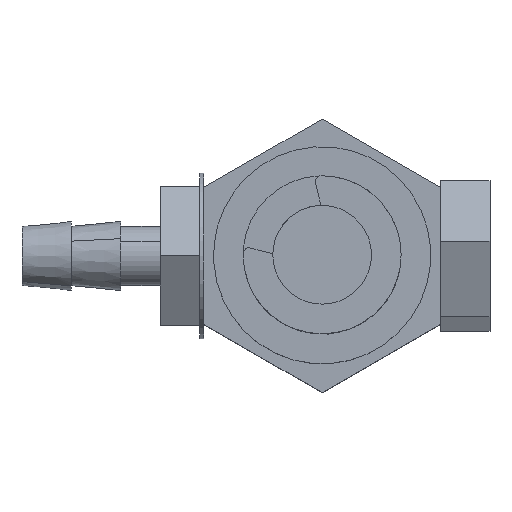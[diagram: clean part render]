
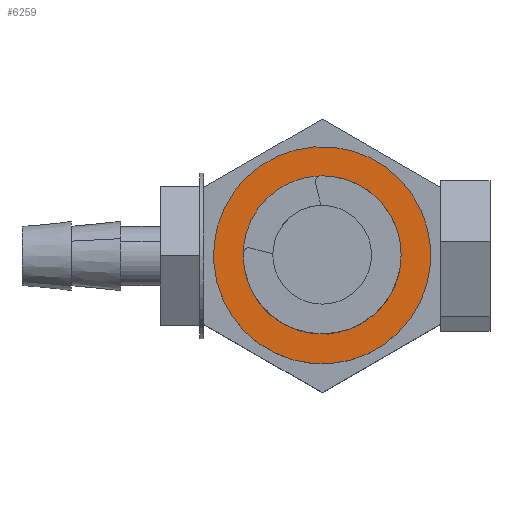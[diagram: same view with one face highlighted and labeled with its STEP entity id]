
A CAD part, top view. The second image highlights one B-rep face of the part: STEP entity #6259.
In plain terms, the highlighted planar face has unit normal (0, 0, 1).
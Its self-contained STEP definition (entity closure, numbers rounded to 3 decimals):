
#398 = DIRECTION ( 'NONE',  ( 0.413, -0.911, 0. ) ) ;
#857 = CIRCLE ( 'NONE', #7018, 4. ) ;
#953 = CARTESIAN_POINT ( 'NONE',  ( -1.237, -2.683, 8.25 ) ) ;
#1015 = AXIS2_PLACEMENT_3D ( 'NONE', #8887, #4668, #398 ) ;
#1981 = DIRECTION ( 'NONE',  ( 0., 0., -1. ) ) ;
#2286 = AXIS2_PLACEMENT_3D ( 'NONE', #6263, #1981, #6973 ) ;
#2502 = VERTEX_POINT ( 'NONE', #8126 ) ;
#2545 = CARTESIAN_POINT ( 'NONE',  ( 4.679, -6.038, 8.25 ) ) ;
#3066 = FACE_BOUND ( 'NONE', #7951, .T. ) ;
#3727 = DIRECTION ( 'NONE',  ( 0., 0., -1. ) ) ;
#3888 = DIRECTION ( 'NONE',  ( 0., 0., -1. ) ) ;
#4121 = CARTESIAN_POINT ( 'NONE',  ( 2.406, -1.03, 8.25 ) ) ;
#4171 = ORIENTED_EDGE ( 'NONE', *, *, #4575, .T. ) ;
#4575 = EDGE_CURVE ( 'NONE', #7172, #7605, #857, .T. ) ;
#4605 = AXIS2_PLACEMENT_3D ( 'NONE', #4121, #9055, #4843 ) ;
#4668 = DIRECTION ( 'NONE',  ( 0., 0., -1. ) ) ;
#4748 = FACE_OUTER_BOUND ( 'NONE', #5403, .T. ) ;
#4843 = DIRECTION ( 'NONE',  ( 0.911, 0.413, 0. ) ) ;
#4948 = ORIENTED_EDGE ( 'NONE', *, *, #5534, .T. ) ;
#5121 = ORIENTED_EDGE ( 'NONE', *, *, #6009, .F. ) ;
#5402 = ORIENTED_EDGE ( 'NONE', *, *, #6134, .F. ) ;
#5403 = EDGE_LOOP ( 'NONE', ( #5121, #5402 ) ) ;
#5534 = EDGE_CURVE ( 'NONE', #7605, #7172, #8721, .T. ) ;
#5987 = AXIS2_PLACEMENT_3D ( 'NONE', #8119, #3888, #8830 ) ;
#6009 = EDGE_CURVE ( 'NONE', #6733, #2502, #7406, .T. ) ;
#6134 = EDGE_CURVE ( 'NONE', #2502, #6733, #6530, .T. ) ;
#6259 = ADVANCED_FACE ( 'NONE', ( #3066, #4748 ), #6939, .F. ) ;
#6263 = CARTESIAN_POINT ( 'NONE',  ( -0.363, -8.398, 8.25 ) ) ;
#6530 = CIRCLE ( 'NONE', #1015, 5.5 ) ;
#6733 = VERTEX_POINT ( 'NONE', #2545 ) ;
#6939 = PLANE ( 'NONE',  #2286 ) ;
#6973 = DIRECTION ( 'NONE',  ( -0.413, 0.911, 0. ) ) ;
#7018 = AXIS2_PLACEMENT_3D ( 'NONE', #7968, #3727, #8671 ) ;
#7172 = VERTEX_POINT ( 'NONE', #953 ) ;
#7406 = CIRCLE ( 'NONE', #5987, 5.5 ) ;
#7605 = VERTEX_POINT ( 'NONE', #8185 ) ;
#7951 = EDGE_LOOP ( 'NONE', ( #4948, #4171 ) ) ;
#7968 = CARTESIAN_POINT ( 'NONE',  ( 2.406, -1.03, 8.25 ) ) ;
#8119 = CARTESIAN_POINT ( 'NONE',  ( 2.406, -1.03, 8.25 ) ) ;
#8126 = CARTESIAN_POINT ( 'NONE',  ( 0.133, 3.979, 8.25 ) ) ;
#8185 = CARTESIAN_POINT ( 'NONE',  ( 6.048, 0.623, 8.25 ) ) ;
#8671 = DIRECTION ( 'NONE',  ( 0.911, 0.413, 0. ) ) ;
#8721 = CIRCLE ( 'NONE', #4605, 4. ) ;
#8830 = DIRECTION ( 'NONE',  ( 0.413, -0.911, 0. ) ) ;
#8887 = CARTESIAN_POINT ( 'NONE',  ( 2.406, -1.03, 8.25 ) ) ;
#9055 = DIRECTION ( 'NONE',  ( 0., 0., -1. ) ) ;
